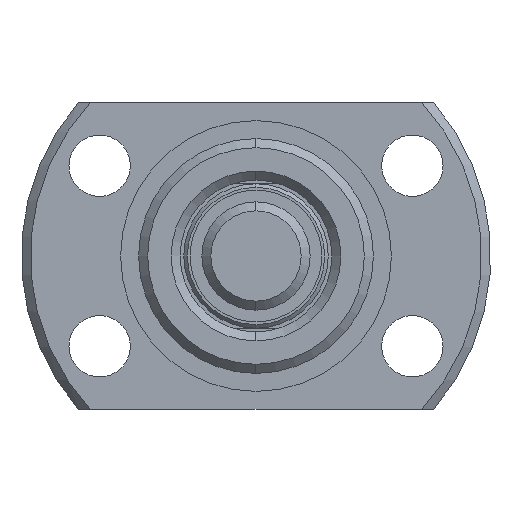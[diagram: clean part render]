
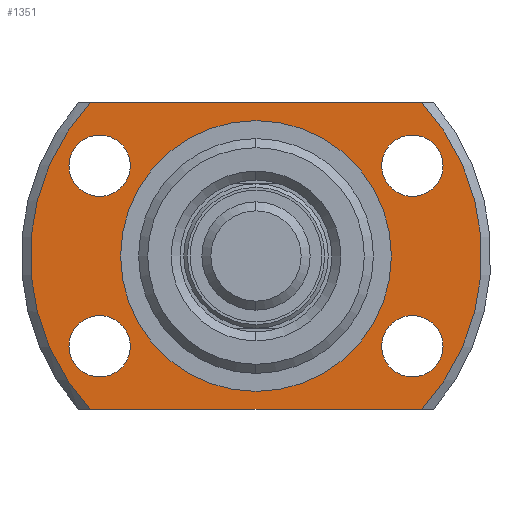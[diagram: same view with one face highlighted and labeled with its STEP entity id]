
A CAD part, left-side view. The second image highlights one B-rep face of the part: STEP entity #1351.
In plain terms, the highlighted planar face has unit normal (-1, 0, 0).
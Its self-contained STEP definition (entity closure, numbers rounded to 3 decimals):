
#27 = DIRECTION ( 'NONE',  ( 0., 0., 1. ) ) ;
#29 = DIRECTION ( 'NONE',  ( -1., 0., 0. ) ) ;
#30 = CARTESIAN_POINT ( 'NONE',  ( -4., 8.66, -5. ) ) ;
#43 = DIRECTION ( 'NONE',  ( 0., 0., 1. ) ) ;
#44 = DIRECTION ( 'NONE',  ( -1., 0., 0. ) ) ;
#45 = CARTESIAN_POINT ( 'NONE',  ( -4., 8.66, 5. ) ) ;
#58 = DIRECTION ( 'NONE',  ( 0., 0., -1. ) ) ;
#59 = DIRECTION ( 'NONE',  ( 1., 0., 0. ) ) ;
#60 = DIRECTION ( 'NONE',  ( 0., -1., 0. ) ) ;
#61 = CARTESIAN_POINT ( 'NONE',  ( -4., 0., 0. ) ) ;
#67 = DIRECTION ( 'NONE',  ( 1., 0., 0. ) ) ;
#69 = CARTESIAN_POINT ( 'NONE',  ( -4., 0., 0. ) ) ;
#73 = DIRECTION ( 'NONE',  ( 0., 0., -1. ) ) ;
#74 = CARTESIAN_POINT ( 'NONE',  ( -4., 12.5, 8.5 ) ) ;
#75 = CARTESIAN_POINT ( 'NONE',  ( -4., 12.5, -8.5 ) ) ;
#76 = DIRECTION ( 'NONE',  ( 0., 0., 1. ) ) ;
#77 = DIRECTION ( 'NONE',  ( -1., 0., 0. ) ) ;
#81 = CARTESIAN_POINT ( 'NONE',  ( -4., 8.66, -5. ) ) ;
#82 = DIRECTION ( 'NONE',  ( 0., 1., 0. ) ) ;
#85 = DIRECTION ( 'NONE',  ( 0., 0., 1. ) ) ;
#88 = DIRECTION ( 'NONE',  ( -1., 0., 0. ) ) ;
#94 = CARTESIAN_POINT ( 'NONE',  ( -4., 8.66, 5. ) ) ;
#97 = DIRECTION ( 'NONE',  ( -1., 0., 0. ) ) ;
#98 = DIRECTION ( 'NONE',  ( 0., 0., 1. ) ) ;
#102 = CARTESIAN_POINT ( 'NONE',  ( -4., -8.66, 5. ) ) ;
#106 = DIRECTION ( 'NONE',  ( 0., 0., -1. ) ) ;
#108 = DIRECTION ( 'NONE',  ( 0., 0., 1. ) ) ;
#109 = CARTESIAN_POINT ( 'NONE',  ( -4., -8.66, -5. ) ) ;
#110 = DIRECTION ( 'NONE',  ( -1., 0., 0. ) ) ;
#129 = DIRECTION ( 'NONE',  ( 1., 0., 0. ) ) ;
#139 = CARTESIAN_POINT ( 'NONE',  ( -4., 0., 0. ) ) ;
#169 = CIRCLE ( 'NONE', #696, 1.7 ) ;
#171 = CIRCLE ( 'NONE', #698, 1.7 ) ;
#212 = CARTESIAN_POINT ( 'NONE',  ( -4., 8.66, -6.7 ) ) ;
#220 = CARTESIAN_POINT ( 'NONE',  ( -4., 8.66, -3.3 ) ) ;
#225 = CARTESIAN_POINT ( 'NONE',  ( -4., 8.66, 6.7 ) ) ;
#229 = CARTESIAN_POINT ( 'NONE',  ( -4., 8.66, 3.3 ) ) ;
#244 = CARTESIAN_POINT ( 'NONE',  ( -4., -8.66, 6.7 ) ) ;
#253 = CARTESIAN_POINT ( 'NONE',  ( -4., -8.66, -3.3 ) ) ;
#283 = CARTESIAN_POINT ( 'NONE',  ( -4., -8.66, 3.3 ) ) ;
#349 = CARTESIAN_POINT ( 'NONE',  ( -4., -8.66, -6.7 ) ) ;
#429 = CARTESIAN_POINT ( 'NONE',  ( -4., -9.165, -8.5 ) ) ;
#430 = CARTESIAN_POINT ( 'NONE',  ( -4., 9.165, -8.5 ) ) ;
#434 = CARTESIAN_POINT ( 'NONE',  ( -4., 9.165, 8.5 ) ) ;
#435 = CARTESIAN_POINT ( 'NONE',  ( -4., -9.165, 8.5 ) ) ;
#452 = CARTESIAN_POINT ( 'NONE',  ( -4., 0., -7.5 ) ) ;
#455 = CARTESIAN_POINT ( 'NONE',  ( -4., 0., 7.5 ) ) ;
#463 = DIRECTION ( 'NONE',  ( 1., 0., 0. ) ) ;
#464 = CARTESIAN_POINT ( 'NONE',  ( -4., 0., 0. ) ) ;
#620 = DIRECTION ( 'NONE',  ( 0., 0., -1. ) ) ;
#633 = DIRECTION ( 'NONE',  ( 0., 0., 1. ) ) ;
#634 = CARTESIAN_POINT ( 'NONE',  ( -4., 12.5, 0. ) ) ;
#637 = PLANE ( 'NONE',  #816 ) ;
#639 = DIRECTION ( 'NONE',  ( -1., 0., 0. ) ) ;
#696 = AXIS2_PLACEMENT_3D ( 'NONE', #1527, #1524, #1523 ) ;
#698 = AXIS2_PLACEMENT_3D ( 'NONE', #1542, #1538, #1537 ) ;
#752 = AXIS2_PLACEMENT_3D ( 'NONE', #30, #29, #27 ) ;
#754 = AXIS2_PLACEMENT_3D ( 'NONE', #45, #44, #43 ) ;
#756 = AXIS2_PLACEMENT_3D ( 'NONE', #61, #59, #58 ) ;
#773 = AXIS2_PLACEMENT_3D ( 'NONE', #69, #67, #73 ) ;
#774 = AXIS2_PLACEMENT_3D ( 'NONE', #81, #77, #76 ) ;
#775 = AXIS2_PLACEMENT_3D ( 'NONE', #94, #88, #85 ) ;
#776 = AXIS2_PLACEMENT_3D ( 'NONE', #102, #97, #98 ) ;
#777 = AXIS2_PLACEMENT_3D ( 'NONE', #109, #110, #108 ) ;
#778 = AXIS2_PLACEMENT_3D ( 'NONE', #139, #129, #106 ) ;
#779 = AXIS2_PLACEMENT_3D ( 'NONE', #464, #463, #620 ) ;
#816 = AXIS2_PLACEMENT_3D ( 'NONE', #634, #639, #633 ) ;
#891 = EDGE_LOOP ( 'NONE', ( #929, #928 ) ) ;
#892 = EDGE_LOOP ( 'NONE', ( #933, #932 ) ) ;
#893 = EDGE_LOOP ( 'NONE', ( #923, #922, #921, #2328 ) ) ;
#897 = EDGE_LOOP ( 'NONE', ( #927, #926 ) ) ;
#898 = EDGE_LOOP ( 'NONE', ( #925, #924 ) ) ;
#921 = ORIENTED_EDGE ( 'NONE', *, *, #1723, .F. ) ;
#922 = ORIENTED_EDGE ( 'NONE', *, *, #1731, .T. ) ;
#923 = ORIENTED_EDGE ( 'NONE', *, *, #1721, .F. ) ;
#924 = ORIENTED_EDGE ( 'NONE', *, *, #1757, .T. ) ;
#925 = ORIENTED_EDGE ( 'NONE', *, *, #1730, .T. ) ;
#926 = ORIENTED_EDGE ( 'NONE', *, *, #1729, .F. ) ;
#927 = ORIENTED_EDGE ( 'NONE', *, *, #1765, .F. ) ;
#928 = ORIENTED_EDGE ( 'NONE', *, *, #1728, .F. ) ;
#929 = ORIENTED_EDGE ( 'NONE', *, *, #1761, .F. ) ;
#930 = ORIENTED_EDGE ( 'NONE', *, *, #1727, .F. ) ;
#931 = ORIENTED_EDGE ( 'NONE', *, *, #1864, .F. ) ;
#932 = ORIENTED_EDGE ( 'NONE', *, *, #1726, .F. ) ;
#933 = ORIENTED_EDGE ( 'NONE', *, *, #1861, .F. ) ;
#1151 = VERTEX_POINT ( 'NONE', #349 ) ;
#1158 = VERTEX_POINT ( 'NONE', #283 ) ;
#1167 = VERTEX_POINT ( 'NONE', #253 ) ;
#1169 = VERTEX_POINT ( 'NONE', #244 ) ;
#1172 = VERTEX_POINT ( 'NONE', #229 ) ;
#1173 = VERTEX_POINT ( 'NONE', #225 ) ;
#1176 = VERTEX_POINT ( 'NONE', #212 ) ;
#1177 = VERTEX_POINT ( 'NONE', #220 ) ;
#1196 = VERTEX_POINT ( 'NONE', #455 ) ;
#1199 = VERTEX_POINT ( 'NONE', #452 ) ;
#1216 = VERTEX_POINT ( 'NONE', #435 ) ;
#1217 = VERTEX_POINT ( 'NONE', #434 ) ;
#1221 = VERTEX_POINT ( 'NONE', #430 ) ;
#1222 = VERTEX_POINT ( 'NONE', #429 ) ;
#1351 = ADVANCED_FACE ( 'NONE', ( #2093, #2094, #2106, #2104, #2091, #2095 ), #637, .T. ) ;
#1523 = DIRECTION ( 'NONE',  ( 0., 0., 1. ) ) ;
#1524 = DIRECTION ( 'NONE',  ( -1., 0., 0. ) ) ;
#1527 = CARTESIAN_POINT ( 'NONE',  ( -4., -8.66, 5. ) ) ;
#1537 = DIRECTION ( 'NONE',  ( 0., 0., 1. ) ) ;
#1538 = DIRECTION ( 'NONE',  ( -1., 0., 0. ) ) ;
#1542 = CARTESIAN_POINT ( 'NONE',  ( -4., -8.66, -5. ) ) ;
#1721 = EDGE_CURVE ( 'NONE', #1216, #1222, #2011, .T. ) ;
#1723 = EDGE_CURVE ( 'NONE', #1221, #1217, #2000, .T. ) ;
#1726 = EDGE_CURVE ( 'NONE', #1167, #1151, #2001, .T. ) ;
#1727 = EDGE_CURVE ( 'NONE', #1169, #1158, #1999, .T. ) ;
#1728 = EDGE_CURVE ( 'NONE', #1173, #1172, #1998, .T. ) ;
#1729 = EDGE_CURVE ( 'NONE', #1177, #1176, #1997, .T. ) ;
#1730 = EDGE_CURVE ( 'NONE', #1199, #1196, #1996, .T. ) ;
#1731 = EDGE_CURVE ( 'NONE', #1216, #1217, #2005, .T. ) ;
#1732 = EDGE_CURVE ( 'NONE', #1221, #1222, #1995, .T. ) ;
#1757 = EDGE_CURVE ( 'NONE', #1196, #1199, #1958, .T. ) ;
#1761 = EDGE_CURVE ( 'NONE', #1172, #1173, #1952, .T. ) ;
#1765 = EDGE_CURVE ( 'NONE', #1176, #1177, #1947, .T. ) ;
#1861 = EDGE_CURVE ( 'NONE', #1151, #1167, #171, .T. ) ;
#1864 = EDGE_CURVE ( 'NONE', #1158, #1169, #169, .T. ) ;
#1947 = CIRCLE ( 'NONE', #752, 1.7 ) ;
#1952 = CIRCLE ( 'NONE', #754, 1.7 ) ;
#1958 = CIRCLE ( 'NONE', #756, 7.5 ) ;
#1991 = VECTOR ( 'NONE', #60, 1000. ) ;
#1993 = VECTOR ( 'NONE', #82, 1000. ) ;
#1995 = LINE ( 'NONE', #75, #1991 ) ;
#1996 = CIRCLE ( 'NONE', #773, 7.5 ) ;
#1997 = CIRCLE ( 'NONE', #774, 1.7 ) ;
#1998 = CIRCLE ( 'NONE', #775, 1.7 ) ;
#1999 = CIRCLE ( 'NONE', #776, 1.7 ) ;
#2000 = CIRCLE ( 'NONE', #778, 12.5 ) ;
#2001 = CIRCLE ( 'NONE', #777, 1.7 ) ;
#2005 = LINE ( 'NONE', #74, #1993 ) ;
#2011 = CIRCLE ( 'NONE', #779, 12.5 ) ;
#2091 = FACE_BOUND ( 'NONE', #898, .T. ) ;
#2093 = FACE_BOUND ( 'NONE', #892, .T. ) ;
#2094 = FACE_BOUND ( 'NONE', #2402, .T. ) ;
#2095 = FACE_OUTER_BOUND ( 'NONE', #893, .T. ) ;
#2104 = FACE_BOUND ( 'NONE', #897, .T. ) ;
#2106 = FACE_BOUND ( 'NONE', #891, .T. ) ;
#2328 = ORIENTED_EDGE ( 'NONE', *, *, #1732, .T. ) ;
#2402 = EDGE_LOOP ( 'NONE', ( #931, #930 ) ) ;
